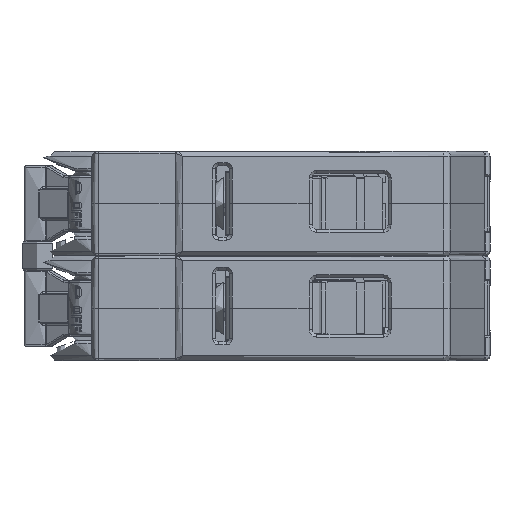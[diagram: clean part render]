
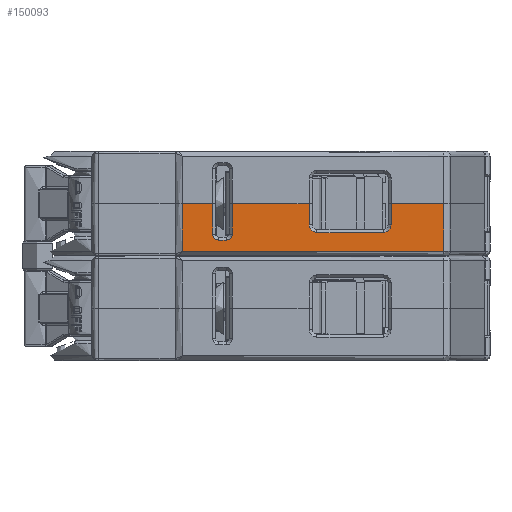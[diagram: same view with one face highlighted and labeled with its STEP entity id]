
A CAD part, left-side view. The second image highlights one B-rep face of the part: STEP entity #150093.
In plain terms, the highlighted planar face has unit normal (-1, 0, 0).
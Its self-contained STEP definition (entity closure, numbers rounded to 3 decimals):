
#4860=FACE_OUTER_BOUND($,#13320,.T.);
#13320=EDGE_LOOP($,(#99112,#99113,#99114,#99115,#99116,#99117,#99118,#99119,
#99120,#99121,#99122,#99123,#99124,#99125,#99126,#99127));
#22584=CIRCLE($,#158693,1.016);
#22585=CIRCLE($,#158694,1.016);
#22586=CIRCLE($,#158695,1.295);
#22587=CIRCLE($,#158696,1.295);
#25426=LINE($,#210634,#43524);
#25478=LINE($,#210751,#43576);
#25479=LINE($,#210755,#43577);
#25480=LINE($,#210757,#43578);
#25481=LINE($,#210759,#43579);
#25482=LINE($,#210763,#43580);
#25483=LINE($,#210767,#43581);
#25484=LINE($,#210769,#43582);
#25485=LINE($,#210771,#43583);
#25486=LINE($,#210773,#43584);
#25487=LINE($,#210774,#43585);
#25488=LINE($,#210778,#43586);
#43524=VECTOR($,#170061,8.728);
#43576=VECTOR($,#170135,3.531);
#43577=VECTOR($,#170138,3.531);
#43578=VECTOR($,#170139,12.827);
#43579=VECTOR($,#170140,5.08);
#43580=VECTOR($,#170143,1.27);
#43581=VECTOR($,#170146,5.08);
#43582=VECTOR($,#170147,5.055);
#43583=VECTOR($,#170148,7.95);
#43584=VECTOR($,#170149,43.627);
#43585=VECTOR($,#170150,7.95);
#43586=VECTOR($,#170153,11.125);
#61649=VERTEX_POINT($,#210631);
#61650=VERTEX_POINT($,#210633);
#61704=VERTEX_POINT($,#210749);
#61705=VERTEX_POINT($,#210753);
#61706=VERTEX_POINT($,#210754);
#61707=VERTEX_POINT($,#210756);
#61708=VERTEX_POINT($,#210758);
#61709=VERTEX_POINT($,#210760);
#61710=VERTEX_POINT($,#210762);
#61711=VERTEX_POINT($,#210764);
#61712=VERTEX_POINT($,#210766);
#61713=VERTEX_POINT($,#210768);
#61714=VERTEX_POINT($,#210770);
#61715=VERTEX_POINT($,#210772);
#61716=VERTEX_POINT($,#210775);
#61717=VERTEX_POINT($,#210777);
#76471=EDGE_CURVE($,#61649,#61650,#25426,.T.);
#76531=EDGE_CURVE($,#61704,#61649,#25478,.T.);
#76532=EDGE_CURVE($,#61705,#61706,#25479,.T.);
#76533=EDGE_CURVE($,#61707,#61705,#25480,.T.);
#76534=EDGE_CURVE($,#61708,#61707,#25481,.T.);
#76535=EDGE_CURVE($,#61709,#61708,#22584,.T.);
#76536=EDGE_CURVE($,#61710,#61709,#25482,.T.);
#76537=EDGE_CURVE($,#61711,#61710,#22585,.T.);
#76538=EDGE_CURVE($,#61712,#61711,#25483,.T.);
#76539=EDGE_CURVE($,#61713,#61712,#25484,.T.);
#76540=EDGE_CURVE($,#61713,#61714,#25485,.T.);
#76541=EDGE_CURVE($,#61714,#61715,#25486,.T.);
#76542=EDGE_CURVE($,#61715,#61650,#25487,.T.);
#76543=EDGE_CURVE($,#61716,#61704,#22586,.T.);
#76544=EDGE_CURVE($,#61717,#61716,#25488,.T.);
#76545=EDGE_CURVE($,#61706,#61717,#22587,.T.);
#99112=ORIENTED_EDGE($,*,*,#76532,.F.);
#99113=ORIENTED_EDGE($,*,*,#76533,.F.);
#99114=ORIENTED_EDGE($,*,*,#76534,.F.);
#99115=ORIENTED_EDGE($,*,*,#76535,.F.);
#99116=ORIENTED_EDGE($,*,*,#76536,.F.);
#99117=ORIENTED_EDGE($,*,*,#76537,.F.);
#99118=ORIENTED_EDGE($,*,*,#76538,.F.);
#99119=ORIENTED_EDGE($,*,*,#76539,.F.);
#99120=ORIENTED_EDGE($,*,*,#76540,.T.);
#99121=ORIENTED_EDGE($,*,*,#76541,.T.);
#99122=ORIENTED_EDGE($,*,*,#76542,.T.);
#99123=ORIENTED_EDGE($,*,*,#76471,.F.);
#99124=ORIENTED_EDGE($,*,*,#76531,.F.);
#99125=ORIENTED_EDGE($,*,*,#76543,.F.);
#99126=ORIENTED_EDGE($,*,*,#76544,.F.);
#99127=ORIENTED_EDGE($,*,*,#76545,.F.);
#143846=PLANE($,#158692);
#150093=ADVANCED_FACE($,(#4860),#143846,.T.);
#158692=AXIS2_PLACEMENT_3D($,#210752,#170136,#170137);
#158693=AXIS2_PLACEMENT_3D($,#210761,#170141,#170142);
#158694=AXIS2_PLACEMENT_3D($,#210765,#170144,#170145);
#158695=AXIS2_PLACEMENT_3D($,#210776,#170151,#170152);
#158696=AXIS2_PLACEMENT_3D($,#210779,#170154,#170155);
#170061=DIRECTION($,(0.,-1.,0.));
#170135=DIRECTION($,(0.,0.,1.));
#170136=DIRECTION('center_axis',(-1.,0.,0.));
#170137=DIRECTION('ref_axis',(0.,-1.,0.));
#170138=DIRECTION($,(0.,0.,-1.));
#170139=DIRECTION($,(0.,-1.,0.));
#170140=DIRECTION($,(0.,0.,1.));
#170141=DIRECTION('center_axis',(-1.,0.,0.));
#170142=DIRECTION('ref_axis',(0.,0.,-1.));
#170143=DIRECTION($,(0.,-1.,0.));
#170144=DIRECTION('center_axis',(-1.,0.,0.));
#170145=DIRECTION('ref_axis',(0.,0.,-1.));
#170146=DIRECTION($,(0.,0.,-1.));
#170147=DIRECTION($,(0.,-1.,0.));
#170148=DIRECTION($,(0.,0.,-1.));
#170149=DIRECTION($,(0.,-1.,0.));
#170150=DIRECTION($,(0.,0.,1.));
#170151=DIRECTION('center_axis',(-1.,0.,0.));
#170152=DIRECTION('ref_axis',(0.,0.,-1.));
#170153=DIRECTION($,(0.,-1.,0.));
#170154=DIRECTION('center_axis',(-1.,0.,0.));
#170155=DIRECTION('ref_axis',(0.,0.,-1.));
#210631=CARTESIAN_POINT('',(-43.942,-14.503,0.));
#210633=CARTESIAN_POINT('',(-43.942,-23.231,0.));
#210634=CARTESIAN_POINT($,(-43.942,-14.503,0.));
#210749=CARTESIAN_POINT('',(-43.942,-14.503,-3.531));
#210751=CARTESIAN_POINT($,(-43.942,-14.503,-0.883));
#210752=CARTESIAN_POINT('Origin',(-43.942,21.59,0.));
#210753=CARTESIAN_POINT('',(-43.942,-0.787,0.));
#210754=CARTESIAN_POINT('',(-43.942,-0.787,-3.531));
#210755=CARTESIAN_POINT($,(-43.942,-0.787,-0.883));
#210756=CARTESIAN_POINT('',(-43.942,12.04,0.));
#210757=CARTESIAN_POINT($,(-43.942,12.04,0.));
#210758=CARTESIAN_POINT('',(-43.942,12.04,-5.08));
#210759=CARTESIAN_POINT($,(-43.942,12.04,-1.27));
#210760=CARTESIAN_POINT('',(-43.942,13.056,-6.096));
#210761=CARTESIAN_POINT('Origin',(-43.942,13.056,-5.08));
#210762=CARTESIAN_POINT('',(-43.942,14.326,-6.096));
#210763=CARTESIAN_POINT($,(-43.942,17.64,-6.096));
#210764=CARTESIAN_POINT('',(-43.942,15.342,-5.08));
#210765=CARTESIAN_POINT('Origin',(-43.942,14.326,-5.08));
#210766=CARTESIAN_POINT('',(-43.942,15.342,0.));
#210767=CARTESIAN_POINT($,(-43.942,15.342,-1.27));
#210768=CARTESIAN_POINT('',(-43.942,20.396,0.));
#210769=CARTESIAN_POINT($,(-43.942,20.396,0.));
#210770=CARTESIAN_POINT('',(-43.942,20.396,-7.95));
#210771=CARTESIAN_POINT($,(-43.942,20.396,0.));
#210772=CARTESIAN_POINT('',(-43.942,-23.231,-7.95));
#210773=CARTESIAN_POINT($,(-43.942,20.396,-7.95));
#210774=CARTESIAN_POINT($,(-43.942,-23.231,-7.95));
#210775=CARTESIAN_POINT('',(-43.942,-13.208,-4.826));
#210776=CARTESIAN_POINT('Origin',(-43.942,-13.208,-3.531));
#210777=CARTESIAN_POINT('',(-43.942,-2.083,-4.826));
#210778=CARTESIAN_POINT($,(-43.942,6.972,-4.826));
#210779=CARTESIAN_POINT('Origin',(-43.942,-2.083,-3.531));
